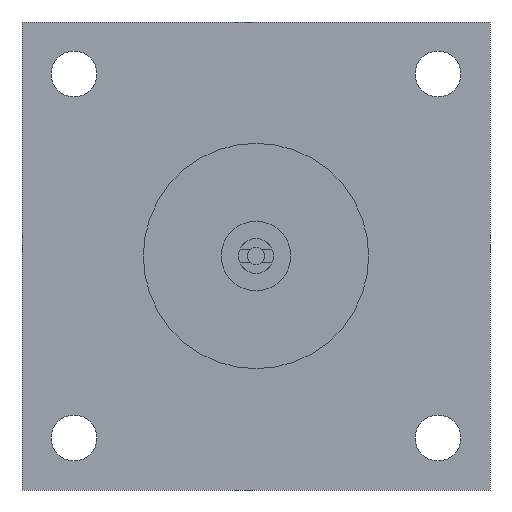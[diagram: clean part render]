
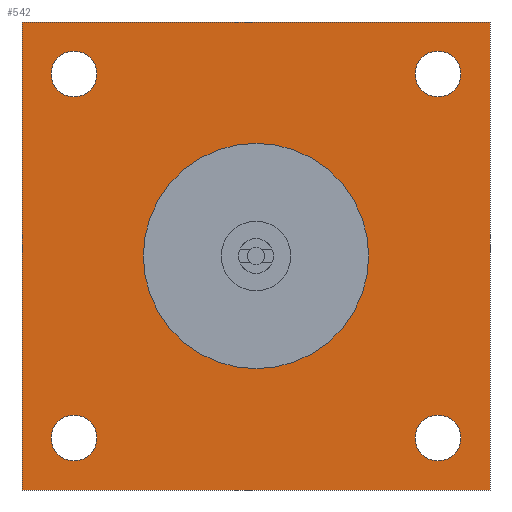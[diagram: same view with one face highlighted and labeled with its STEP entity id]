
A CAD part, left-side view. The second image highlights one B-rep face of the part: STEP entity #542.
In plain terms, the highlighted planar face has unit normal (-1, 0, 0).
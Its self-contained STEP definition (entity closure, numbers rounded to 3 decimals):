
#16 = CARTESIAN_POINT ( 'NONE',  ( -25., 105., -118.25 ) ) ;
#47 = AXIS2_PLACEMENT_3D ( 'NONE', #1422, #1429, #1437 ) ;
#48 = VERTEX_POINT ( 'NONE', #1712 ) ;
#57 = CARTESIAN_POINT ( 'NONE',  ( -25., 105., -105. ) ) ;
#61 = DIRECTION ( 'NONE',  ( 0., 0., 1. ) ) ;
#73 = AXIS2_PLACEMENT_3D ( 'NONE', #1386, #1396, #1401 ) ;
#75 = DIRECTION ( 'NONE',  ( 0., 0., 1. ) ) ;
#102 = AXIS2_PLACEMENT_3D ( 'NONE', #1218, #1230, #1233 ) ;
#114 = EDGE_CURVE ( 'NONE', #544, #48, #807, .T. ) ;
#120 = EDGE_CURVE ( 'NONE', #833, #1566, #918, .T. ) ;
#122 = CARTESIAN_POINT ( 'NONE',  ( -25., 0., 65. ) ) ;
#136 = EDGE_CURVE ( 'NONE', #395, #1801, #647, .T. ) ;
#156 = CARTESIAN_POINT ( 'NONE',  ( -25., 105., 105. ) ) ;
#169 = DIRECTION ( 'NONE',  ( -1., 0., 0. ) ) ;
#180 = DIRECTION ( 'NONE',  ( 0., 0., 1. ) ) ;
#194 = EDGE_CURVE ( 'NONE', #228, #544, #995, .T. ) ;
#220 = CARTESIAN_POINT ( 'NONE',  ( -25., 105., 118.25 ) ) ;
#228 = VERTEX_POINT ( 'NONE', #1054 ) ;
#230 = FACE_BOUND ( 'NONE', #561, .T. ) ;
#245 = CARTESIAN_POINT ( 'NONE',  ( -25., -105., -105. ) ) ;
#267 = CARTESIAN_POINT ( 'NONE',  ( -25., 0., -65. ) ) ;
#270 = ORIENTED_EDGE ( 'NONE', *, *, #1457, .F. ) ;
#280 = CARTESIAN_POINT ( 'NONE',  ( -25., -105., -118.25 ) ) ;
#283 = EDGE_CURVE ( 'NONE', #493, #1284, #673, .T. ) ;
#289 = DIRECTION ( 'NONE',  ( -1., 0., 0. ) ) ;
#319 = ORIENTED_EDGE ( 'NONE', *, *, #629, .F. ) ;
#331 = VERTEX_POINT ( 'NONE', #1347 ) ;
#353 = DIRECTION ( 'NONE',  ( 0., 0., 1. ) ) ;
#355 = EDGE_LOOP ( 'NONE', ( #1639, #1203 ) ) ;
#364 = DIRECTION ( 'NONE',  ( 0., 1., 0. ) ) ;
#372 = ORIENTED_EDGE ( 'NONE', *, *, #1446, .F. ) ;
#395 = VERTEX_POINT ( 'NONE', #1030 ) ;
#420 = ORIENTED_EDGE ( 'NONE', *, *, #1136, .T. ) ;
#421 = ORIENTED_EDGE ( 'NONE', *, *, #1149, .T. ) ;
#423 = AXIS2_PLACEMENT_3D ( 'NONE', #156, #169, #180 ) ;
#434 = CARTESIAN_POINT ( 'NONE',  ( -25., -105., 118.25 ) ) ;
#493 = VERTEX_POINT ( 'NONE', #1408 ) ;
#533 = EDGE_CURVE ( 'NONE', #1491, #1696, #1007, .T. ) ;
#542 = ADVANCED_FACE ( 'NONE', ( #1674, #230, #1059, #1126, #1147, #805 ), #576, .F. ) ;
#544 = VERTEX_POINT ( 'NONE', #602 ) ;
#555 = AXIS2_PLACEMENT_3D ( 'NONE', #909, #914, #937 ) ;
#558 = ORIENTED_EDGE ( 'NONE', *, *, #1414, .F. ) ;
#561 = EDGE_LOOP ( 'NONE', ( #1389, #854 ) ) ;
#570 = EDGE_CURVE ( 'NONE', #1566, #833, #1436, .T. ) ;
#572 = CARTESIAN_POINT ( 'NONE',  ( -25., 135., -135. ) ) ;
#576 = PLANE ( 'NONE',  #1573 ) ;
#602 = CARTESIAN_POINT ( 'NONE',  ( -25., -135., -135. ) ) ;
#619 = CARTESIAN_POINT ( 'NONE',  ( -25., 105., 105. ) ) ;
#629 = EDGE_CURVE ( 'NONE', #1696, #1491, #1220, .T. ) ;
#630 = DIRECTION ( 'NONE',  ( 0., 0., 1. ) ) ;
#635 = DIRECTION ( 'NONE',  ( -1., 0., 0. ) ) ;
#647 = CIRCLE ( 'NONE', #1507, 13.25 ) ;
#669 = CARTESIAN_POINT ( 'NONE',  ( -25., 0., 0. ) ) ;
#671 = CIRCLE ( 'NONE', #47, 13.25 ) ;
#673 = CIRCLE ( 'NONE', #1512, 13.25 ) ;
#683 = ORIENTED_EDGE ( 'NONE', *, *, #136, .F. ) ;
#687 = CIRCLE ( 'NONE', #73, 65. ) ;
#690 = CIRCLE ( 'NONE', #102, 65. ) ;
#695 = EDGE_LOOP ( 'NONE', ( #683, #270 ) ) ;
#716 = EDGE_CURVE ( 'NONE', #1284, #493, #1767, .T. ) ;
#744 = DIRECTION ( 'NONE',  ( 1., 0., 0. ) ) ;
#788 = DIRECTION ( 'NONE',  ( 0., 0., -1. ) ) ;
#805 = FACE_OUTER_BOUND ( 'NONE', #1332, .T. ) ;
#807 = LINE ( 'NONE', #1737, #916 ) ;
#833 = VERTEX_POINT ( 'NONE', #1618 ) ;
#836 = DIRECTION ( 'NONE',  ( 0., -1., 0. ) ) ;
#854 = ORIENTED_EDGE ( 'NONE', *, *, #283, .F. ) ;
#872 = VERTEX_POINT ( 'NONE', #122 ) ;
#909 = CARTESIAN_POINT ( 'NONE',  ( -25., -105., 105. ) ) ;
#914 = DIRECTION ( 'NONE',  ( -1., 0., 0. ) ) ;
#916 = VECTOR ( 'NONE', #1738, 1000. ) ;
#918 = CIRCLE ( 'NONE', #1403, 13.25 ) ;
#937 = DIRECTION ( 'NONE',  ( 0., 0., 1. ) ) ;
#995 = LINE ( 'NONE', #572, #1082 ) ;
#1007 = CIRCLE ( 'NONE', #1075, 13.25 ) ;
#1030 = CARTESIAN_POINT ( 'NONE',  ( -25., -105., -91.75 ) ) ;
#1053 = VECTOR ( 'NONE', #364, 1000. ) ;
#1054 = CARTESIAN_POINT ( 'NONE',  ( -25., 135., -135. ) ) ;
#1059 = FACE_BOUND ( 'NONE', #695, .T. ) ;
#1073 = VECTOR ( 'NONE', #1251, 1000. ) ;
#1074 = LINE ( 'NONE', #1115, #1073 ) ;
#1075 = AXIS2_PLACEMENT_3D ( 'NONE', #619, #635, #630 ) ;
#1077 = LINE ( 'NONE', #1156, #1053 ) ;
#1082 = VECTOR ( 'NONE', #836, 1000. ) ;
#1087 = EDGE_LOOP ( 'NONE', ( #558, #372 ) ) ;
#1112 = ORIENTED_EDGE ( 'NONE', *, *, #533, .F. ) ;
#1115 = CARTESIAN_POINT ( 'NONE',  ( -25., 135., 135. ) ) ;
#1126 = FACE_BOUND ( 'NONE', #1758, .T. ) ;
#1136 = EDGE_CURVE ( 'NONE', #331, #228, #1074, .T. ) ;
#1147 = FACE_BOUND ( 'NONE', #355, .T. ) ;
#1149 = EDGE_CURVE ( 'NONE', #48, #331, #1077, .T. ) ;
#1154 = ORIENTED_EDGE ( 'NONE', *, *, #114, .T. ) ;
#1156 = CARTESIAN_POINT ( 'NONE',  ( -25., 135., 135. ) ) ;
#1201 = ORIENTED_EDGE ( 'NONE', *, *, #194, .T. ) ;
#1203 = ORIENTED_EDGE ( 'NONE', *, *, #570, .F. ) ;
#1218 = CARTESIAN_POINT ( 'NONE',  ( -25., 0., 0. ) ) ;
#1220 = CIRCLE ( 'NONE', #423, 13.25 ) ;
#1230 = DIRECTION ( 'NONE',  ( -1., 0., 0. ) ) ;
#1233 = DIRECTION ( 'NONE',  ( 0., 0., -1. ) ) ;
#1251 = DIRECTION ( 'NONE',  ( 0., 0., -1. ) ) ;
#1284 = VERTEX_POINT ( 'NONE', #434 ) ;
#1307 = CARTESIAN_POINT ( 'NONE',  ( -25., 105., -105. ) ) ;
#1331 = DIRECTION ( 'NONE',  ( -1., 0., 0. ) ) ;
#1332 = EDGE_LOOP ( 'NONE', ( #1201, #1154, #421, #420 ) ) ;
#1341 = CARTESIAN_POINT ( 'NONE',  ( -25., -105., 105. ) ) ;
#1347 = CARTESIAN_POINT ( 'NONE',  ( -25., 135., 135. ) ) ;
#1356 = DIRECTION ( 'NONE',  ( 0., 0., 1. ) ) ;
#1385 = DIRECTION ( 'NONE',  ( -1., 0., 0. ) ) ;
#1386 = CARTESIAN_POINT ( 'NONE',  ( -25., 0., 0. ) ) ;
#1389 = ORIENTED_EDGE ( 'NONE', *, *, #716, .F. ) ;
#1396 = DIRECTION ( 'NONE',  ( -1., 0., 0. ) ) ;
#1401 = DIRECTION ( 'NONE',  ( 0., 0., -1. ) ) ;
#1403 = AXIS2_PLACEMENT_3D ( 'NONE', #57, #1609, #75 ) ;
#1408 = CARTESIAN_POINT ( 'NONE',  ( -25., -105., 91.75 ) ) ;
#1414 = EDGE_CURVE ( 'NONE', #1734, #872, #690, .T. ) ;
#1422 = CARTESIAN_POINT ( 'NONE',  ( -25., -105., -105. ) ) ;
#1429 = DIRECTION ( 'NONE',  ( -1., 0., 0. ) ) ;
#1436 = CIRCLE ( 'NONE', #1474, 13.25 ) ;
#1437 = DIRECTION ( 'NONE',  ( 0., 0., 1. ) ) ;
#1446 = EDGE_CURVE ( 'NONE', #872, #1734, #687, .T. ) ;
#1448 = CARTESIAN_POINT ( 'NONE',  ( -25., 105., 91.75 ) ) ;
#1457 = EDGE_CURVE ( 'NONE', #1801, #395, #671, .T. ) ;
#1474 = AXIS2_PLACEMENT_3D ( 'NONE', #1307, #1385, #61 ) ;
#1491 = VERTEX_POINT ( 'NONE', #1448 ) ;
#1507 = AXIS2_PLACEMENT_3D ( 'NONE', #245, #289, #353 ) ;
#1512 = AXIS2_PLACEMENT_3D ( 'NONE', #1341, #1331, #1356 ) ;
#1566 = VERTEX_POINT ( 'NONE', #16 ) ;
#1573 = AXIS2_PLACEMENT_3D ( 'NONE', #669, #744, #788 ) ;
#1609 = DIRECTION ( 'NONE',  ( -1., 0., 0. ) ) ;
#1618 = CARTESIAN_POINT ( 'NONE',  ( -25., 105., -91.75 ) ) ;
#1639 = ORIENTED_EDGE ( 'NONE', *, *, #120, .F. ) ;
#1674 = FACE_BOUND ( 'NONE', #1087, .T. ) ;
#1696 = VERTEX_POINT ( 'NONE', #220 ) ;
#1712 = CARTESIAN_POINT ( 'NONE',  ( -25., -135., 135. ) ) ;
#1734 = VERTEX_POINT ( 'NONE', #267 ) ;
#1737 = CARTESIAN_POINT ( 'NONE',  ( -25., -135., 135. ) ) ;
#1738 = DIRECTION ( 'NONE',  ( 0., 0., 1. ) ) ;
#1758 = EDGE_LOOP ( 'NONE', ( #319, #1112 ) ) ;
#1767 = CIRCLE ( 'NONE', #555, 13.25 ) ;
#1801 = VERTEX_POINT ( 'NONE', #280 ) ;
